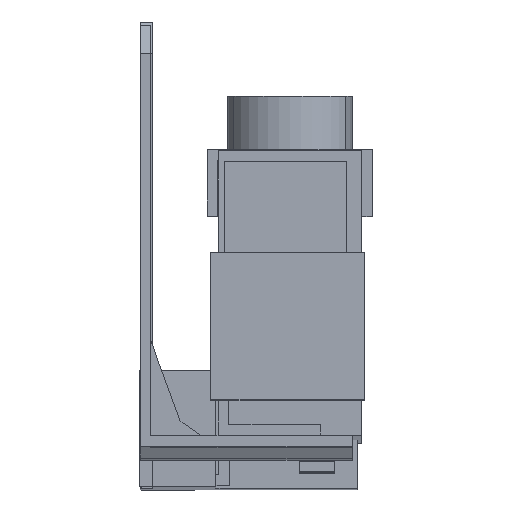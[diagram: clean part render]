
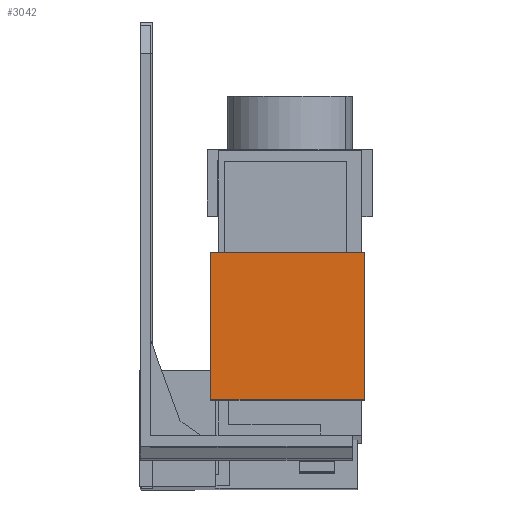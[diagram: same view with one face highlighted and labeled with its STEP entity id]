
A CAD part, front view. The second image highlights one B-rep face of the part: STEP entity #3042.
In plain terms, the highlighted planar face has unit normal (0, -1, 0.003).
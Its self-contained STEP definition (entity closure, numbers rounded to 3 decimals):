
#382 = CARTESIAN_POINT ( 'NONE',  ( 9.3, -31.509, -40.315 ) ) ;
#385 = DIRECTION ( 'NONE',  ( 1., 0., 0. ) ) ;
#657 = DIRECTION ( 'NONE',  ( 1., 0., 0. ) ) ;
#888 = PLANE ( 'NONE',  #1936 ) ;
#891 = CARTESIAN_POINT ( 'NONE',  ( 9.3, -31.509, -40.315 ) ) ;
#897 = DIRECTION ( 'NONE',  ( 0., -1., 0.003 ) ) ;
#898 = DIRECTION ( 'NONE',  ( -1., 0., 0. ) ) ;
#1354 = DIRECTION ( 'NONE',  ( 0., 0.003, 1. ) ) ;
#1484 = CARTESIAN_POINT ( 'NONE',  ( 10.05, -31.509, -40.315 ) ) ;
#1936 = AXIS2_PLACEMENT_3D ( 'NONE', #891, #897, #898 ) ;
#2002 = EDGE_CURVE ( 'NONE', #8628, #8629, #5092, .T. ) ;
#2007 = EDGE_CURVE ( 'NONE', #8632, #8633, #5091, .T. ) ;
#2331 = EDGE_CURVE ( 'NONE', #8632, #8628, #5350, .T. ) ;
#2353 = CARTESIAN_POINT ( 'NONE',  ( 9.3, -31.452, -19.316 ) ) ;
#2691 = CARTESIAN_POINT ( 'NONE',  ( 10.05, -31.452, -19.316 ) ) ;
#2692 = CARTESIAN_POINT ( 'NONE',  ( 31.95, -31.452, -19.316 ) ) ;
#2695 = CARTESIAN_POINT ( 'NONE',  ( 10.05, -31.509, -40.315 ) ) ;
#2696 = CARTESIAN_POINT ( 'NONE',  ( 31.95, -31.509, -40.315 ) ) ;
#3042 = ADVANCED_FACE ( 'NONE', ( #5621 ), #888, .T. ) ;
#4130 = ORIENTED_EDGE ( 'NONE', *, *, #2002, .F. ) ;
#4131 = ORIENTED_EDGE ( 'NONE', *, *, #2331, .F. ) ;
#4132 = ORIENTED_EDGE ( 'NONE', *, *, #2007, .T. ) ;
#4133 = ORIENTED_EDGE ( 'NONE', *, *, #7293, .F. ) ;
#4654 = EDGE_LOOP ( 'NONE', ( #4130, #4131, #4132, #4133 ) ) ;
#5069 = VECTOR ( 'NONE', #385, 1000. ) ;
#5091 = LINE ( 'NONE', #382, #5098 ) ;
#5092 = LINE ( 'NONE', #2353, #5069 ) ;
#5098 = VECTOR ( 'NONE', #657, 1000. ) ;
#5346 = VECTOR ( 'NONE', #1354, 1000. ) ;
#5350 = LINE ( 'NONE', #1484, #5346 ) ;
#5621 = FACE_OUTER_BOUND ( 'NONE', #4654, .T. ) ;
#6557 = CARTESIAN_POINT ( 'NONE',  ( 31.95, -31.452, -19.316 ) ) ;
#6558 = DIRECTION ( 'NONE',  ( 0., -0.003, -1. ) ) ;
#7293 = EDGE_CURVE ( 'NONE', #8629, #8633, #8149, .T. ) ;
#8149 = LINE ( 'NONE', #6557, #8157 ) ;
#8157 = VECTOR ( 'NONE', #6558, 1000. ) ;
#8628 = VERTEX_POINT ( 'NONE', #2691 ) ;
#8629 = VERTEX_POINT ( 'NONE', #2692 ) ;
#8632 = VERTEX_POINT ( 'NONE', #2695 ) ;
#8633 = VERTEX_POINT ( 'NONE', #2696 ) ;
